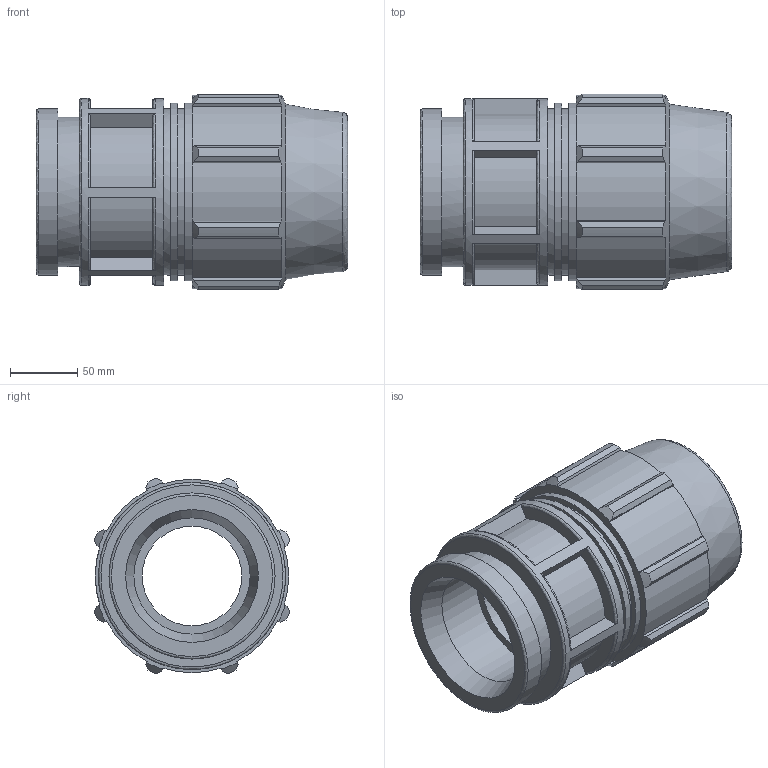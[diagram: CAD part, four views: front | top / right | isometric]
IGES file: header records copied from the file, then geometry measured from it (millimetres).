
Global section: file name: 0732060900400A.ipt; native system: Autodesk Inventor 2015; preprocessor: unknown; author: KIM; date: 20170608.042716; units: millimetre
Bounding box: 231 x 144.9 x 144.9 mm (x, y, z)
Volume: 1601137.1 mm3; surface area: 209855.9 mm2
Topology: 1 solids, 1 shells, 128 faces, 341 edges, 230 vertices
Faces by surface type: plane 68, cylinder 29, revolution 21, cone 10
Full cylindrical faces by diameter (mm): 110.7 x1, 123 x1, 123.2 x2, 131.67 x2, 138.6 x1
